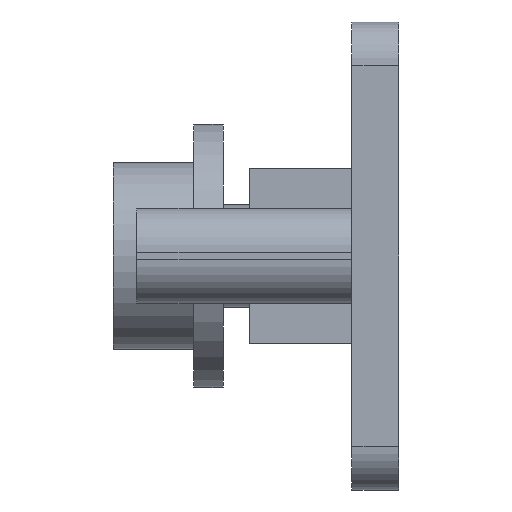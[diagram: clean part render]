
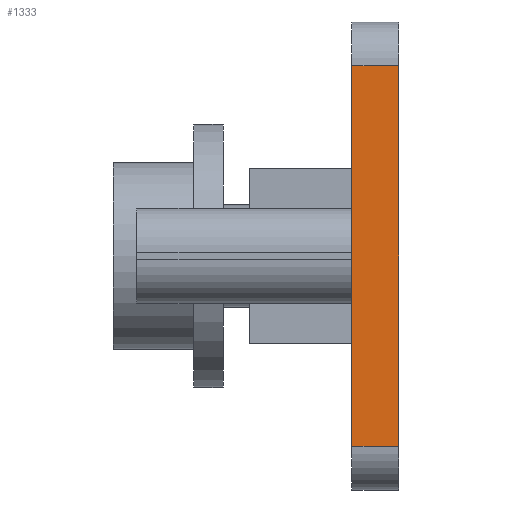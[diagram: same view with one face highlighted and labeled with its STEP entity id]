
A CAD part, left-side view. The second image highlights one B-rep face of the part: STEP entity #1333.
In plain terms, the highlighted planar face has unit normal (-1, 0, 0).
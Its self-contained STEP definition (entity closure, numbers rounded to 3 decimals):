
#450 = PLANE('',#451);
#451 = AXIS2_PLACEMENT_3D('',#452,#453,#454);
#452 = CARTESIAN_POINT('',(-46.,55.45,10.));
#453 = DIRECTION('',(-0.,1.,0.));
#454 = DIRECTION('',(0.,0.,1.));
#643 = VERTEX_POINT('',#644);
#644 = CARTESIAN_POINT('',(-46.,55.45,11.5));
#663 = CYLINDRICAL_SURFACE('',#664,1.5);
#664 = AXIS2_PLACEMENT_3D('',#665,#666,#667);
#665 = CARTESIAN_POINT('',(-44.5,53.85,11.5));
#666 = DIRECTION('',(-0.,1.,0.));
#667 = DIRECTION('',(-1.,-0.,0.));
#675 = EDGE_CURVE('',#643,#676,#678,.T.);
#676 = VERTEX_POINT('',#677);
#677 = CARTESIAN_POINT('',(-46.,55.45,24.5));
#678 = SURFACE_CURVE('',#679,(#683,#690),.PCURVE_S1.);
#679 = LINE('',#680,#681);
#680 = CARTESIAN_POINT('',(-46.,55.45,10.));
#681 = VECTOR('',#682,1.);
#682 = DIRECTION('',(0.,0.,1.));
#683 = PCURVE('',#450,#684);
#684 = DEFINITIONAL_REPRESENTATION('',(#685),#689);
#685 = LINE('',#686,#687);
#686 = CARTESIAN_POINT('',(0.,0.));
#687 = VECTOR('',#688,1.);
#688 = DIRECTION('',(1.,0.));
#689 = ( GEOMETRIC_REPRESENTATION_CONTEXT(2) 
PARAMETRIC_REPRESENTATION_CONTEXT() REPRESENTATION_CONTEXT('2D SPACE',''
  ) );
#690 = PCURVE('',#691,#696);
#691 = PLANE('',#692);
#692 = AXIS2_PLACEMENT_3D('',#693,#694,#695);
#693 = CARTESIAN_POINT('',(-46.,53.85,10.));
#694 = DIRECTION('',(1.,0.,-0.));
#695 = DIRECTION('',(0.,0.,1.));
#696 = DEFINITIONAL_REPRESENTATION('',(#697),#701);
#697 = LINE('',#698,#699);
#698 = CARTESIAN_POINT('',(0.,-1.6));
#699 = VECTOR('',#700,1.);
#700 = DIRECTION('',(1.,0.));
#701 = ( GEOMETRIC_REPRESENTATION_CONTEXT(2) 
PARAMETRIC_REPRESENTATION_CONTEXT() REPRESENTATION_CONTEXT('2D SPACE',''
  ) );
#720 = CYLINDRICAL_SURFACE('',#721,1.5);
#721 = AXIS2_PLACEMENT_3D('',#722,#723,#724);
#722 = CARTESIAN_POINT('',(-44.5,53.85,24.5));
#723 = DIRECTION('',(-0.,1.,0.));
#724 = DIRECTION('',(-1.,-0.,0.));
#1197 = PLANE('',#1198);
#1198 = AXIS2_PLACEMENT_3D('',#1199,#1200,#1201);
#1199 = CARTESIAN_POINT('',(-46.,53.85,10.));
#1200 = DIRECTION('',(-0.,1.,0.));
#1201 = DIRECTION('',(0.,0.,1.));
#1234 = VERTEX_POINT('',#1235);
#1235 = CARTESIAN_POINT('',(-46.,53.85,11.5));
#1263 = EDGE_CURVE('',#1234,#643,#1264,.T.);
#1264 = SURFACE_CURVE('',#1265,(#1269,#1276),.PCURVE_S1.);
#1265 = LINE('',#1266,#1267);
#1266 = CARTESIAN_POINT('',(-46.,53.85,11.5));
#1267 = VECTOR('',#1268,1.);
#1268 = DIRECTION('',(-0.,1.,0.));
#1269 = PCURVE('',#663,#1270);
#1270 = DEFINITIONAL_REPRESENTATION('',(#1271),#1275);
#1271 = LINE('',#1272,#1273);
#1272 = CARTESIAN_POINT('',(-0.,0.));
#1273 = VECTOR('',#1274,1.);
#1274 = DIRECTION('',(-0.,1.));
#1275 = ( GEOMETRIC_REPRESENTATION_CONTEXT(2) 
PARAMETRIC_REPRESENTATION_CONTEXT() REPRESENTATION_CONTEXT('2D SPACE',''
  ) );
#1276 = PCURVE('',#691,#1277);
#1277 = DEFINITIONAL_REPRESENTATION('',(#1278),#1282);
#1278 = LINE('',#1279,#1280);
#1279 = CARTESIAN_POINT('',(1.5,0.));
#1280 = VECTOR('',#1281,1.);
#1281 = DIRECTION('',(0.,-1.));
#1282 = ( GEOMETRIC_REPRESENTATION_CONTEXT(2) 
PARAMETRIC_REPRESENTATION_CONTEXT() REPRESENTATION_CONTEXT('2D SPACE',''
  ) );
#1333 = ADVANCED_FACE('',(#1334),#691,.F.);
#1334 = FACE_BOUND('',#1335,.F.);
#1335 = EDGE_LOOP('',(#1336,#1359,#1360,#1361));
#1336 = ORIENTED_EDGE('',*,*,#1337,.F.);
#1337 = EDGE_CURVE('',#1234,#1338,#1340,.T.);
#1338 = VERTEX_POINT('',#1339);
#1339 = CARTESIAN_POINT('',(-46.,53.85,24.5));
#1340 = SURFACE_CURVE('',#1341,(#1345,#1352),.PCURVE_S1.);
#1341 = LINE('',#1342,#1343);
#1342 = CARTESIAN_POINT('',(-46.,53.85,10.));
#1343 = VECTOR('',#1344,1.);
#1344 = DIRECTION('',(0.,0.,1.));
#1345 = PCURVE('',#691,#1346);
#1346 = DEFINITIONAL_REPRESENTATION('',(#1347),#1351);
#1347 = LINE('',#1348,#1349);
#1348 = CARTESIAN_POINT('',(0.,0.));
#1349 = VECTOR('',#1350,1.);
#1350 = DIRECTION('',(1.,0.));
#1351 = ( GEOMETRIC_REPRESENTATION_CONTEXT(2) 
PARAMETRIC_REPRESENTATION_CONTEXT() REPRESENTATION_CONTEXT('2D SPACE',''
  ) );
#1352 = PCURVE('',#1197,#1353);
#1353 = DEFINITIONAL_REPRESENTATION('',(#1354),#1358);
#1354 = LINE('',#1355,#1356);
#1355 = CARTESIAN_POINT('',(0.,0.));
#1356 = VECTOR('',#1357,1.);
#1357 = DIRECTION('',(1.,0.));
#1358 = ( GEOMETRIC_REPRESENTATION_CONTEXT(2) 
PARAMETRIC_REPRESENTATION_CONTEXT() REPRESENTATION_CONTEXT('2D SPACE',''
  ) );
#1359 = ORIENTED_EDGE('',*,*,#1263,.T.);
#1360 = ORIENTED_EDGE('',*,*,#675,.T.);
#1361 = ORIENTED_EDGE('',*,*,#1362,.F.);
#1362 = EDGE_CURVE('',#1338,#676,#1363,.T.);
#1363 = SURFACE_CURVE('',#1364,(#1368,#1375),.PCURVE_S1.);
#1364 = LINE('',#1365,#1366);
#1365 = CARTESIAN_POINT('',(-46.,53.85,24.5));
#1366 = VECTOR('',#1367,1.);
#1367 = DIRECTION('',(-0.,1.,0.));
#1368 = PCURVE('',#691,#1369);
#1369 = DEFINITIONAL_REPRESENTATION('',(#1370),#1374);
#1370 = LINE('',#1371,#1372);
#1371 = CARTESIAN_POINT('',(14.5,0.));
#1372 = VECTOR('',#1373,1.);
#1373 = DIRECTION('',(0.,-1.));
#1374 = ( GEOMETRIC_REPRESENTATION_CONTEXT(2) 
PARAMETRIC_REPRESENTATION_CONTEXT() REPRESENTATION_CONTEXT('2D SPACE',''
  ) );
#1375 = PCURVE('',#720,#1376);
#1376 = DEFINITIONAL_REPRESENTATION('',(#1377),#1381);
#1377 = LINE('',#1378,#1379);
#1378 = CARTESIAN_POINT('',(0.,0.));
#1379 = VECTOR('',#1380,1.);
#1380 = DIRECTION('',(0.,1.));
#1381 = ( GEOMETRIC_REPRESENTATION_CONTEXT(2) 
PARAMETRIC_REPRESENTATION_CONTEXT() REPRESENTATION_CONTEXT('2D SPACE',''
  ) );
